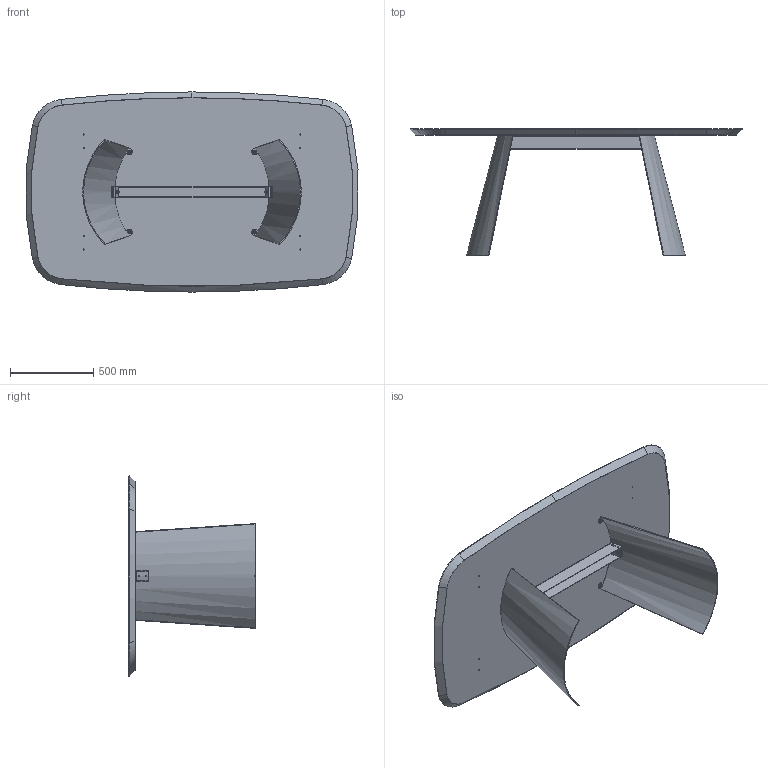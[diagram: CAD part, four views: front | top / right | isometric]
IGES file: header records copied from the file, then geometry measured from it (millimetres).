
Start section: SolidWorks IGES file using analytic representation for surfaces
Global section: file name: Y:\eforma\TECNICO\SOLIDWORKS\E-FORMA\1-TAVOLI\DORIAN\02 parts-rev 01\DN41W.IGS; native system: SolidWorks 2022; preprocessor: SolidWorks 2022; author: eforma.tech; date: 240807.170455; units: millimetre
Bounding box: 1990.53 x 758 x 1200 mm (x, y, z)
Volume: 86964704.7 mm3; surface area: 6964186.9 mm2
Topology: 36 solids, 36 shells, 633 faces, 1458 edges, 879 vertices
Faces by surface type: revolution 387, plane 228, bspline 18
